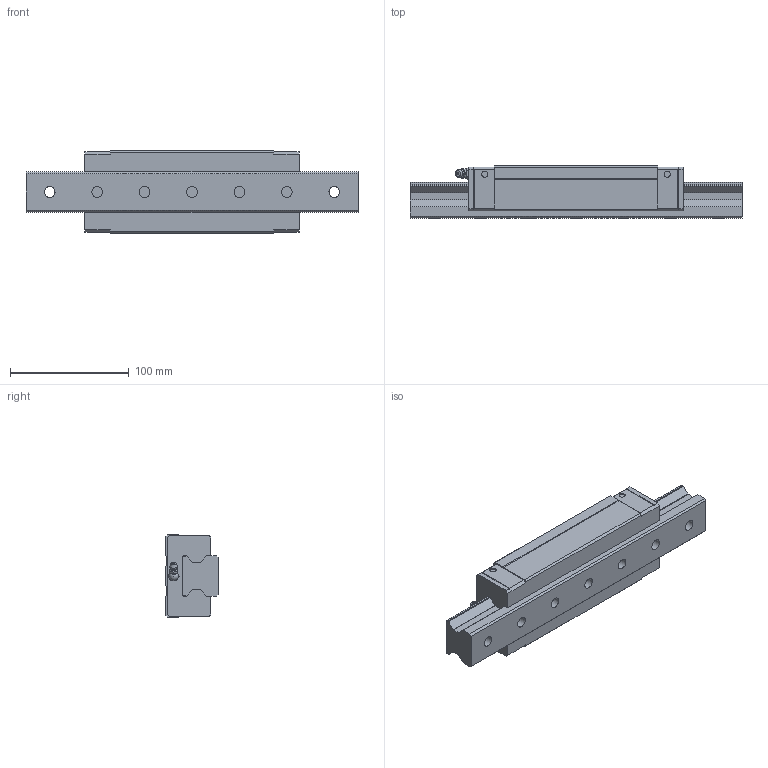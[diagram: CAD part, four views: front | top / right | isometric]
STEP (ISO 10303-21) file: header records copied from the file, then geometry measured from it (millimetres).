
FILE_DESCRIPTION(/* description */ ('STEP AP203'),/* implementation_level */ '2;1');
FILE_NAME(/* name */ 'SRN35SLR1SS-280L_G20_0_B-M6F_49-6_0_0_0_1',/* time_stamp */ '2024-05-23T10:58:26+02:00',/* author */ ('License CC BY-ND 4.0'),/* organization */ ('CADENAS'),/* preprocessor_version */ 'ST-DEVELOPER v19.3',/* originating_system */ 'PARTsolutions',/* authorisation */ ' ');
FILE_SCHEMA (('CONFIG_CONTROL_DESIGN'));
Length unit declared in the file: millimetre
Products named in the file (4): SRN35SLR1SS-280L_G20_0_B-M6F_49-6_0_0_0_1; SRN35SLR28020 Track; SRN35SLRSSB-M6F1 Slide35-65; B-M6F-SRN_grease_nipple_joint
Assembly tree (3 placements, depth 2):
  SRN35SLR1SS-280L_G20_0_B-M6F_49-6_0_0_0_1
    SRN35SLR28020 Track
    SRN35SLRSSB-M6F1 Slide35-65
    B-M6F-SRN_grease_nipple_joint
Bounding box: 280 x 44 x 70 mm (x, y, z)
Volume: 568885.1 mm3; surface area: 101123.5 mm2
Topology: 3 solids, 3 shells, 204 faces, 525 edges, 339 vertices
Faces by surface type: plane 125, cylinder 43, cone 31, sphere 3, torus 2
Full cylindrical faces by diameter (mm): 4.917 x2, 5.2 x4, 6 x1, 6.647 x9, 8 x1, 9 x7, 14 x7
Entity records: 5909 total; most frequent: CARTESIAN_POINT 1088, DIRECTION 956, ORIENTED_EDGE 894, EDGE_CURVE 447, VERTEX_POINT 333, AXIS2_PLACEMENT_3D 325, LINE 306, VECTOR 306
